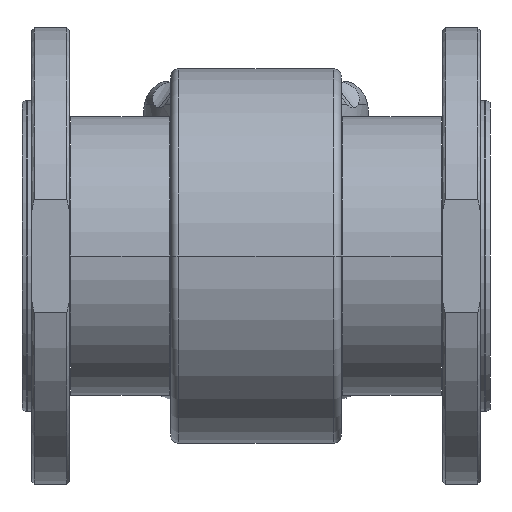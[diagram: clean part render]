
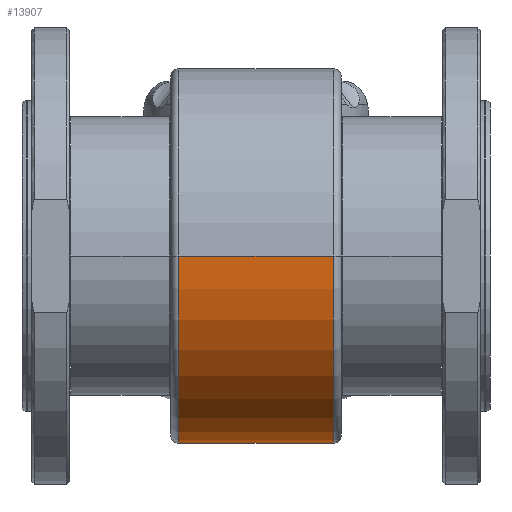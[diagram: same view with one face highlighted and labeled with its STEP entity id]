
A CAD part, front view. The second image highlights one B-rep face of the part: STEP entity #13907.
In plain terms, the highlighted cylindrical face has radius 80 mm (diameter 160 mm), a partial arc.
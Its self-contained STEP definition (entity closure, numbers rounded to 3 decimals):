
#524 = DIRECTION ( 'NONE',  ( -1., 0., 0. ) ) ;
#932 = ORIENTED_EDGE ( 'NONE', *, *, #24130, .T. ) ;
#1056 = VERTEX_POINT ( 'NONE', #17298 ) ;
#1742 = VECTOR ( 'NONE', #20948, 1000. ) ;
#3308 = AXIS2_PLACEMENT_3D ( 'NONE', #21706, #19818, #7895 ) ;
#3680 = CARTESIAN_POINT ( 'NONE',  ( -187.842, -80., 0. ) ) ;
#4050 = CIRCLE ( 'NONE', #10547, 80. ) ;
#5622 = VERTEX_POINT ( 'NONE', #16187 ) ;
#5668 = FACE_OUTER_BOUND ( 'NONE', #14623, .T. ) ;
#6960 = LINE ( 'NONE', #6991, #1742 ) ;
#6991 = CARTESIAN_POINT ( 'NONE',  ( -33., 0., -80. ) ) ;
#7502 = VECTOR ( 'NONE', #23499, 1000. ) ;
#7895 = DIRECTION ( 'NONE',  ( 0., -1., 0. ) ) ;
#8472 = DIRECTION ( 'NONE',  ( -1., 0., 0. ) ) ;
#8488 = CYLINDRICAL_SURFACE ( 'NONE', #3308, 80. ) ;
#9106 = EDGE_CURVE ( 'NONE', #24687, #5622, #4050, .T. ) ;
#10547 = AXIS2_PLACEMENT_3D ( 'NONE', #12412, #524, #14425 ) ;
#11943 = ORIENTED_EDGE ( 'NONE', *, *, #17684, .F. ) ;
#12412 = CARTESIAN_POINT ( 'NONE',  ( 33., 0., 0. ) ) ;
#13298 = ORIENTED_EDGE ( 'NONE', *, *, #9106, .T. ) ;
#13907 = ADVANCED_FACE ( 'NONE', ( #5668 ), #8488, .T. ) ;
#14425 = DIRECTION ( 'NONE',  ( 0., -1., 0. ) ) ;
#14623 = EDGE_LOOP ( 'NONE', ( #13298, #932, #24004, #11943 ) ) ;
#14785 = CARTESIAN_POINT ( 'NONE',  ( 33., 0., -80. ) ) ;
#16187 = CARTESIAN_POINT ( 'NONE',  ( 33., -80., 0. ) ) ;
#16987 = VERTEX_POINT ( 'NONE', #21482 ) ;
#17298 = CARTESIAN_POINT ( 'NONE',  ( -33., -80., 0. ) ) ;
#17684 = EDGE_CURVE ( 'NONE', #24687, #16987, #6960, .T. ) ;
#19818 = DIRECTION ( 'NONE',  ( -1., 0., 0. ) ) ;
#20466 = CARTESIAN_POINT ( 'NONE',  ( -33., 0., 0. ) ) ;
#20948 = DIRECTION ( 'NONE',  ( -1., 0., 0. ) ) ;
#21482 = CARTESIAN_POINT ( 'NONE',  ( -33., 0., -80. ) ) ;
#21584 = EDGE_CURVE ( 'NONE', #16987, #1056, #25147, .T. ) ;
#21706 = CARTESIAN_POINT ( 'NONE',  ( -187.842, 0., 0. ) ) ;
#22326 = DIRECTION ( 'NONE',  ( 0., -1., 0. ) ) ;
#23314 = LINE ( 'NONE', #3680, #7502 ) ;
#23499 = DIRECTION ( 'NONE',  ( -1., 0., 0. ) ) ;
#24004 = ORIENTED_EDGE ( 'NONE', *, *, #21584, .F. ) ;
#24130 = EDGE_CURVE ( 'NONE', #5622, #1056, #23314, .T. ) ;
#24687 = VERTEX_POINT ( 'NONE', #14785 ) ;
#25115 = AXIS2_PLACEMENT_3D ( 'NONE', #20466, #8472, #22326 ) ;
#25147 = CIRCLE ( 'NONE', #25115, 80. ) ;
